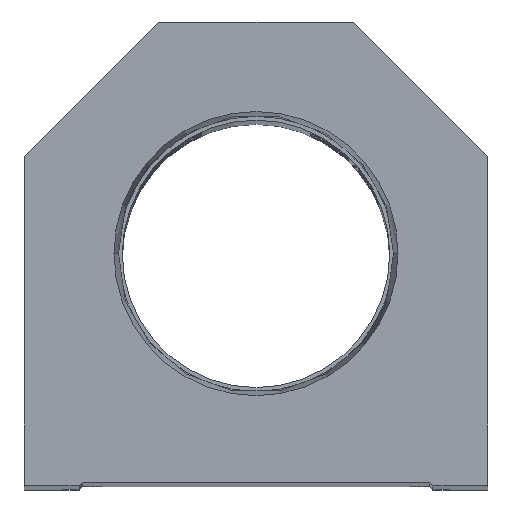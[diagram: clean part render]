
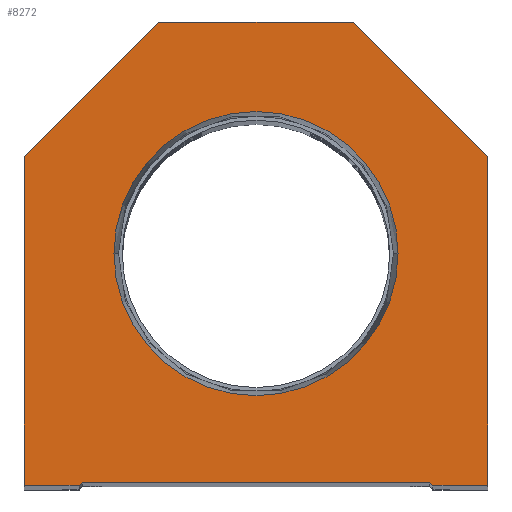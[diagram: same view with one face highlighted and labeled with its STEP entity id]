
A CAD part, top view. The second image highlights one B-rep face of the part: STEP entity #8272.
In plain terms, the highlighted planar face has unit normal (0, 0, 1).
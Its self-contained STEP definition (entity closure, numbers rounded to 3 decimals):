
#35 = DIRECTION ( 'NONE',  ( 1., 0., 0. ) ) ;
#369 = AXIS2_PLACEMENT_3D ( 'NONE', #19836, #18010, #19543 ) ;
#1197 = VERTEX_POINT ( 'NONE', #9239 ) ;
#1331 = CARTESIAN_POINT ( 'NONE',  ( 38.1, 0., 0. ) ) ;
#1527 = DIRECTION ( 'NONE',  ( -0.707, 0.707, 0. ) ) ;
#1614 = VERTEX_POINT ( 'NONE', #4880 ) ;
#1664 = DIRECTION ( 'NONE',  ( 0.707, -0.707, 0. ) ) ;
#2550 = DIRECTION ( 'NONE',  ( -1., 0., 0. ) ) ;
#2707 = CARTESIAN_POINT ( 'NONE',  ( -28.6, 0.5, 0. ) ) ;
#2756 = EDGE_CURVE ( 'NONE', #1197, #12268, #15832, .T. ) ;
#2922 = CARTESIAN_POINT ( 'NONE',  ( 38.1, 54.1, 0. ) ) ;
#3071 = EDGE_CURVE ( 'NONE', #17522, #1197, #16406, .T. ) ;
#3171 = AXIS2_PLACEMENT_3D ( 'NONE', #4835, #15754, #9449 ) ;
#3204 = CIRCLE ( 'NONE', #369, 23.374 ) ;
#3304 = LINE ( 'NONE', #14029, #15826 ) ;
#3607 = EDGE_CURVE ( 'NONE', #4715, #12879, #4720, .T. ) ;
#3860 = VECTOR ( 'NONE', #13094, 1000. ) ;
#3961 = FACE_BOUND ( 'NONE', #10734, .T. ) ;
#4263 = LINE ( 'NONE', #12034, #5770 ) ;
#4393 = EDGE_CURVE ( 'NONE', #5262, #10922, #3204, .T. ) ;
#4479 = CARTESIAN_POINT ( 'NONE',  ( 16., 76.2, 0. ) ) ;
#4669 = ORIENTED_EDGE ( 'NONE', *, *, #3071, .T. ) ;
#4699 = CARTESIAN_POINT ( 'NONE',  ( -23.374, 38.1, 0. ) ) ;
#4715 = VERTEX_POINT ( 'NONE', #11531 ) ;
#4720 = LINE ( 'NONE', #17050, #4789 ) ;
#4789 = VECTOR ( 'NONE', #35, 1000. ) ;
#4835 = CARTESIAN_POINT ( 'NONE',  ( 0., 38.1, 0. ) ) ;
#4880 = CARTESIAN_POINT ( 'NONE',  ( -38.1, 0., 0. ) ) ;
#5054 = ORIENTED_EDGE ( 'NONE', *, *, #17764, .T. ) ;
#5262 = VERTEX_POINT ( 'NONE', #15239 ) ;
#5438 = LINE ( 'NONE', #14728, #12270 ) ;
#5603 = CARTESIAN_POINT ( 'NONE',  ( -29.1, 0., 0. ) ) ;
#5770 = VECTOR ( 'NONE', #1664, 1000. ) ;
#6339 = ORIENTED_EDGE ( 'NONE', *, *, #14804, .F. ) ;
#6352 = ORIENTED_EDGE ( 'NONE', *, *, #17887, .T. ) ;
#6452 = EDGE_CURVE ( 'NONE', #16467, #17522, #3304, .T. ) ;
#6969 = EDGE_CURVE ( 'NONE', #12268, #1614, #5438, .T. ) ;
#6996 = CARTESIAN_POINT ( 'NONE',  ( 16., 76.2, 0. ) ) ;
#7498 = ORIENTED_EDGE ( 'NONE', *, *, #3607, .T. ) ;
#8272 = ADVANCED_FACE ( 'NONE', ( #3961, #10007 ), #12956, .T. ) ;
#8697 = CARTESIAN_POINT ( 'NONE',  ( -28.6, 0., 0. ) ) ;
#8757 = LINE ( 'NONE', #2707, #18301 ) ;
#8854 = LINE ( 'NONE', #1331, #13338 ) ;
#8962 = CARTESIAN_POINT ( 'NONE',  ( 38.1, 0., 0. ) ) ;
#9239 = CARTESIAN_POINT ( 'NONE',  ( -16., 76.2, 0. ) ) ;
#9449 = DIRECTION ( 'NONE',  ( 1., 0., 0. ) ) ;
#9462 = EDGE_CURVE ( 'NONE', #12879, #16467, #8854, .T. ) ;
#9613 = CARTESIAN_POINT ( 'NONE',  ( -38.1, 54.1, 0. ) ) ;
#9712 = DIRECTION ( 'NONE',  ( 0., 0., 1. ) ) ;
#9835 = DIRECTION ( 'NONE',  ( -0.707, -0.707, 0. ) ) ;
#10007 = FACE_OUTER_BOUND ( 'NONE', #15849, .T. ) ;
#10125 = ORIENTED_EDGE ( 'NONE', *, *, #6452, .T. ) ;
#10193 = LINE ( 'NONE', #8697, #17723 ) ;
#10734 = EDGE_LOOP ( 'NONE', ( #13316, #6339 ) ) ;
#10922 = VERTEX_POINT ( 'NONE', #4699 ) ;
#11393 = DIRECTION ( 'NONE',  ( 0., -1., 0. ) ) ;
#11531 = CARTESIAN_POINT ( 'NONE',  ( 29.1, 0., 0. ) ) ;
#12034 = CARTESIAN_POINT ( 'NONE',  ( 14.55, 14.55, 0. ) ) ;
#12268 = VERTEX_POINT ( 'NONE', #9613 ) ;
#12270 = VECTOR ( 'NONE', #11393, 1000. ) ;
#12856 = CARTESIAN_POINT ( 'NONE',  ( 0., 0., 0. ) ) ;
#12879 = VERTEX_POINT ( 'NONE', #8962 ) ;
#12956 = PLANE ( 'NONE',  #16887 ) ;
#13094 = DIRECTION ( 'NONE',  ( 0.707, 0.707, 0. ) ) ;
#13316 = ORIENTED_EDGE ( 'NONE', *, *, #4393, .F. ) ;
#13338 = VECTOR ( 'NONE', #13927, 1000. ) ;
#13493 = CIRCLE ( 'NONE', #3171, 23.374 ) ;
#13557 = ORIENTED_EDGE ( 'NONE', *, *, #6969, .T. ) ;
#13927 = DIRECTION ( 'NONE',  ( 0., 1., 0. ) ) ;
#13966 = VERTEX_POINT ( 'NONE', #18685 ) ;
#14029 = CARTESIAN_POINT ( 'NONE',  ( 38.1, 54.1, 0. ) ) ;
#14145 = EDGE_CURVE ( 'NONE', #13966, #15116, #8757, .T. ) ;
#14449 = VERTEX_POINT ( 'NONE', #5603 ) ;
#14523 = CARTESIAN_POINT ( 'NONE',  ( -14.55, 14.55, 0. ) ) ;
#14728 = CARTESIAN_POINT ( 'NONE',  ( -38.1, 0., 0. ) ) ;
#14804 = EDGE_CURVE ( 'NONE', #10922, #5262, #13493, .T. ) ;
#14873 = DIRECTION ( 'NONE',  ( 1., 0., 0. ) ) ;
#14929 = DIRECTION ( 'NONE',  ( 1., 0., 0. ) ) ;
#15073 = VECTOR ( 'NONE', #9835, 1000. ) ;
#15116 = VERTEX_POINT ( 'NONE', #18044 ) ;
#15239 = CARTESIAN_POINT ( 'NONE',  ( 23.374, 38.1, 0. ) ) ;
#15754 = DIRECTION ( 'NONE',  ( 0., 0., 1. ) ) ;
#15826 = VECTOR ( 'NONE', #1527, 1000. ) ;
#15832 = LINE ( 'NONE', #17442, #15073 ) ;
#15849 = EDGE_LOOP ( 'NONE', ( #5054, #6352, #17025, #17009, #7498, #18892, #10125, #4669, #19430, #13557 ) ) ;
#16051 = LINE ( 'NONE', #14523, #3860 ) ;
#16406 = LINE ( 'NONE', #6996, #18945 ) ;
#16467 = VERTEX_POINT ( 'NONE', #2922 ) ;
#16887 = AXIS2_PLACEMENT_3D ( 'NONE', #12856, #9712, #17416 ) ;
#17009 = ORIENTED_EDGE ( 'NONE', *, *, #18612, .T. ) ;
#17025 = ORIENTED_EDGE ( 'NONE', *, *, #14145, .T. ) ;
#17050 = CARTESIAN_POINT ( 'NONE',  ( 28.6, 0., 0. ) ) ;
#17416 = DIRECTION ( 'NONE',  ( 1., 0., 0. ) ) ;
#17442 = CARTESIAN_POINT ( 'NONE',  ( -38.1, 54.1, 0. ) ) ;
#17522 = VERTEX_POINT ( 'NONE', #4479 ) ;
#17723 = VECTOR ( 'NONE', #14873, 1000. ) ;
#17764 = EDGE_CURVE ( 'NONE', #1614, #14449, #10193, .T. ) ;
#17887 = EDGE_CURVE ( 'NONE', #14449, #13966, #16051, .T. ) ;
#18010 = DIRECTION ( 'NONE',  ( 0., 0., 1. ) ) ;
#18044 = CARTESIAN_POINT ( 'NONE',  ( 28.6, 0.5, 0. ) ) ;
#18301 = VECTOR ( 'NONE', #14929, 1000. ) ;
#18612 = EDGE_CURVE ( 'NONE', #15116, #4715, #4263, .T. ) ;
#18685 = CARTESIAN_POINT ( 'NONE',  ( -28.6, 0.5, 0. ) ) ;
#18892 = ORIENTED_EDGE ( 'NONE', *, *, #9462, .T. ) ;
#18945 = VECTOR ( 'NONE', #2550, 1000. ) ;
#19430 = ORIENTED_EDGE ( 'NONE', *, *, #2756, .T. ) ;
#19543 = DIRECTION ( 'NONE',  ( 1., 0., 0. ) ) ;
#19836 = CARTESIAN_POINT ( 'NONE',  ( 0., 38.1, 0. ) ) ;
